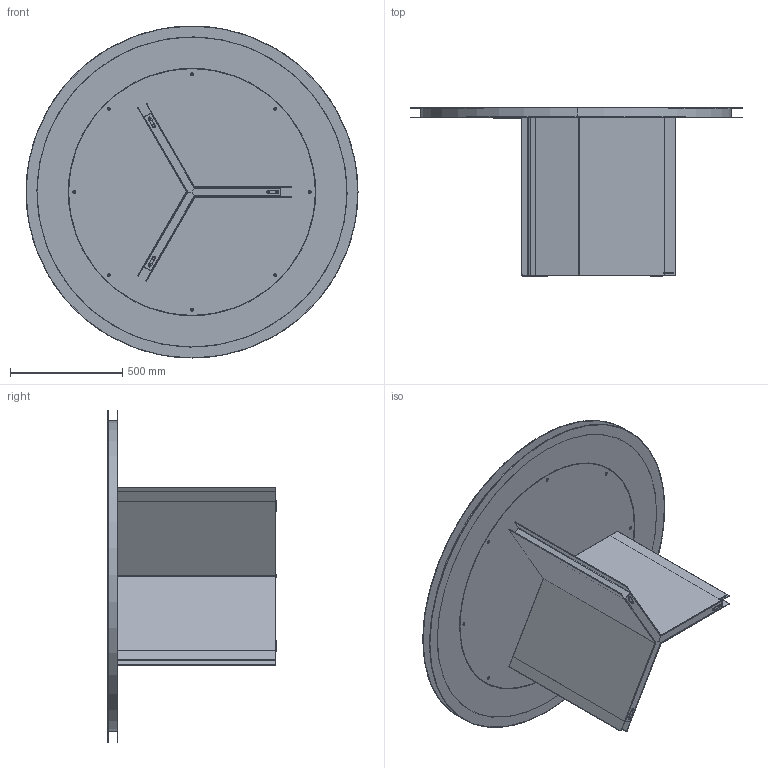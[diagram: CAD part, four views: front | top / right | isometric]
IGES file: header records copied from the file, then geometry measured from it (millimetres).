
Start section: SolidWorks IGES file using analytic representation for surfaces
Global section: file name: \\UTENTI\Dati Utenti\Tecnico\DC\2D - 3D per sito\3D\DeCastelli-3D-Folio Table round.igs; native system: SolidWorks 2022; preprocessor: SolidWorks 2022; author: Silviad; date: 240711.172549; units: millimetre
Bounding box: 1480 x 752.7 x 1480 mm (x, y, z)
Surface area: 10669204.7 mm2 (no closed solid volume)
Topology: 0 solids, 0 shells, 123 faces, 2223 edges, 2223 vertices
Faces by surface type: bspline 70, revolution 53
